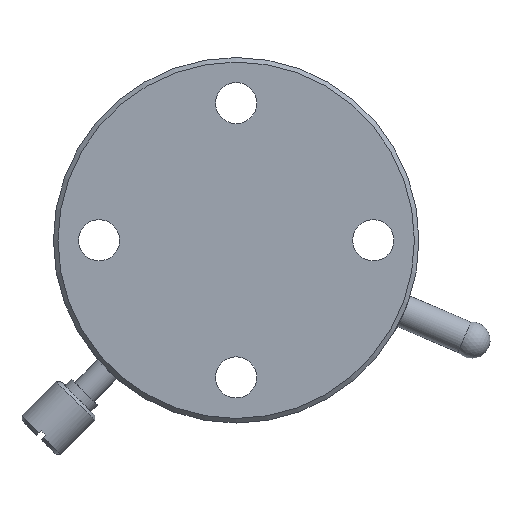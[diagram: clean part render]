
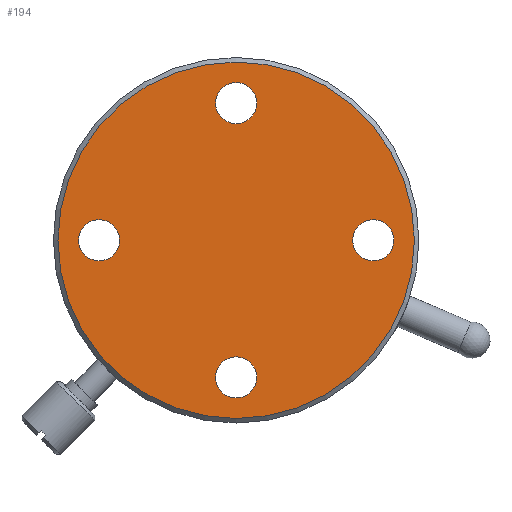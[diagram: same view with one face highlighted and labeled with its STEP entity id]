
A CAD part, front view. The second image highlights one B-rep face of the part: STEP entity #194.
In plain terms, the highlighted planar face has unit normal (0, -1, 0).
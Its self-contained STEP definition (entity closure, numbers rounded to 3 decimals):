
#194 = ADVANCED_FACE( '', ( #332, #333, #334, #335, #336 ), #337, .F. );
#332 = FACE_BOUND( '', #614, .T. );
#333 = FACE_BOUND( '', #615, .T. );
#334 = FACE_BOUND( '', #616, .T. );
#335 = FACE_BOUND( '', #617, .T. );
#336 = FACE_OUTER_BOUND( '', #618, .T. );
#337 = PLANE( '', #619 );
#614 = EDGE_LOOP( '', ( #962 ) );
#615 = EDGE_LOOP( '', ( #963 ) );
#616 = EDGE_LOOP( '', ( #964 ) );
#617 = EDGE_LOOP( '', ( #965 ) );
#618 = EDGE_LOOP( '', ( #966 ) );
#619 = AXIS2_PLACEMENT_3D( '', #967, #968, #969 );
#962 = ORIENTED_EDGE( '', *, *, #1373, .F. );
#963 = ORIENTED_EDGE( '', *, *, #1361, .F. );
#964 = ORIENTED_EDGE( '', *, *, #1365, .F. );
#965 = ORIENTED_EDGE( '', *, *, #1369, .F. );
#966 = ORIENTED_EDGE( '', *, *, #1382, .T. );
#967 = CARTESIAN_POINT( '', ( 19.5, 0., 0. ) );
#968 = DIRECTION( '', ( 0., 1., 0. ) );
#969 = DIRECTION( '', ( 0., 0., 1. ) );
#1361 = EDGE_CURVE( '', #1514, #1514, #1515, .T. );
#1365 = EDGE_CURVE( '', #1522, #1522, #1523, .T. );
#1369 = EDGE_CURVE( '', #1530, #1530, #1531, .T. );
#1373 = EDGE_CURVE( '', #1538, #1538, #1539, .F. );
#1382 = EDGE_CURVE( '', #1556, #1556, #1557, .T. );
#1514 = VERTEX_POINT( '', #1807 );
#1515 = CIRCLE( '', #1808, 2.25 );
#1522 = VERTEX_POINT( '', #1815 );
#1523 = CIRCLE( '', #1816, 2.25 );
#1530 = VERTEX_POINT( '', #1823 );
#1531 = CIRCLE( '', #1824, 2.25 );
#1538 = VERTEX_POINT( '', #1831 );
#1539 = CIRCLE( '', #1832, 2.25 );
#1556 = VERTEX_POINT( '', #1850 );
#1557 = CIRCLE( '', #1851, 19.5 );
#1807 = CARTESIAN_POINT( '', ( 0., 0., -17.25 ) );
#1808 = AXIS2_PLACEMENT_3D( '', #2109, #2110, #2111 );
#1815 = CARTESIAN_POINT( '', ( -15., 0., -2.25 ) );
#1816 = AXIS2_PLACEMENT_3D( '', #2121, #2122, #2123 );
#1823 = CARTESIAN_POINT( '', ( 0., 0., 12.75 ) );
#1824 = AXIS2_PLACEMENT_3D( '', #2133, #2134, #2135 );
#1831 = CARTESIAN_POINT( '', ( 15., 0., 2.25 ) );
#1832 = AXIS2_PLACEMENT_3D( '', #2145, #2146, #2147 );
#1850 = CARTESIAN_POINT( '', ( 0., 0., -19.5 ) );
#1851 = AXIS2_PLACEMENT_3D( '', #2170, #2171, #2172 );
#2109 = CARTESIAN_POINT( '', ( 0., 0., -15. ) );
#2110 = DIRECTION( '', ( 0., -1., 0. ) );
#2111 = DIRECTION( '', ( 0., 0., -1. ) );
#2121 = CARTESIAN_POINT( '', ( -15., 0., 0. ) );
#2122 = DIRECTION( '', ( 0., -1., 0. ) );
#2123 = DIRECTION( '', ( 0., 0., -1. ) );
#2133 = CARTESIAN_POINT( '', ( 0., 0., 15. ) );
#2134 = DIRECTION( '', ( 0., -1., 0. ) );
#2135 = DIRECTION( '', ( 0., 0., -1. ) );
#2145 = CARTESIAN_POINT( '', ( 15., 0., 0. ) );
#2146 = DIRECTION( '', ( 0., 1., 0. ) );
#2147 = DIRECTION( '', ( 0., 0., 1. ) );
#2170 = CARTESIAN_POINT( '', ( 0., 0., 0. ) );
#2171 = DIRECTION( '', ( 0., -1., 0. ) );
#2172 = DIRECTION( '', ( 0., 0., -1. ) );
